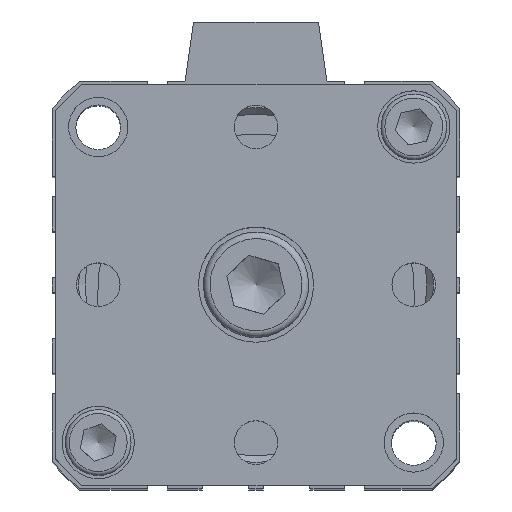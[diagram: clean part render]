
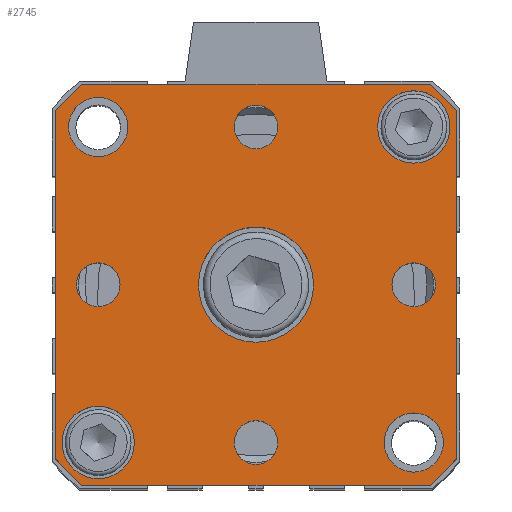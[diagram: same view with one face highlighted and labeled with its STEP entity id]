
A CAD part, top view. The second image highlights one B-rep face of the part: STEP entity #2745.
In plain terms, the highlighted planar face has unit normal (0, 0, 1).
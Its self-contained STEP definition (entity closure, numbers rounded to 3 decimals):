
#365=CARTESIAN_POINT('',(-37.557,28.294,126.6));
#366=VERTEX_POINT('',#365);
#367=CARTESIAN_POINT('',(-33.557,32.294,126.6));
#368=VERTEX_POINT('',#367);
#369=CARTESIAN_POINT('',(-37.557,28.294,126.6));
#370=DIRECTION('',(0.707,0.707,0.0));
#371=VECTOR('',#370,5.657);
#372=LINE('',#369,#371);
#373=EDGE_CURVE('',#366,#368,#372,.T.);
#417=CARTESIAN_POINT('',(19.443,32.294,126.6));
#418=VERTEX_POINT('',#417);
#419=CARTESIAN_POINT('',(-33.557,32.294,126.6));
#420=DIRECTION('',(1.0,0.0,0.0));
#421=VECTOR('',#420,53.);
#422=LINE('',#419,#421);
#423=EDGE_CURVE('',#368,#418,#422,.T.);
#440=CARTESIAN_POINT('',(23.443,28.294,126.6));
#441=VERTEX_POINT('',#440);
#442=CARTESIAN_POINT('',(19.443,32.294,126.6));
#443=DIRECTION('',(0.707,-0.707,0.0));
#444=VECTOR('',#443,5.657);
#445=LINE('',#442,#444);
#446=EDGE_CURVE('',#418,#441,#445,.T.);
#464=CARTESIAN_POINT('',(23.443,-24.706,126.6));
#465=VERTEX_POINT('',#464);
#466=CARTESIAN_POINT('',(19.443,-28.706,126.6));
#467=VERTEX_POINT('',#466);
#468=CARTESIAN_POINT('',(23.443,-24.706,126.6));
#469=DIRECTION('',(-0.707,-0.707,0.0));
#470=VECTOR('',#469,5.657);
#471=LINE('',#468,#470);
#472=EDGE_CURVE('',#465,#467,#471,.T.);
#496=CARTESIAN_POINT('',(-33.557,-28.706,126.6));
#497=VERTEX_POINT('',#496);
#498=CARTESIAN_POINT('',(19.443,-28.706,126.6));
#499=DIRECTION('',(-1.0,0.0,0.0));
#500=VECTOR('',#499,53.);
#501=LINE('',#498,#500);
#502=EDGE_CURVE('',#467,#497,#501,.T.);
#519=CARTESIAN_POINT('',(-37.557,-24.706,126.6));
#520=VERTEX_POINT('',#519);
#521=CARTESIAN_POINT('',(-33.557,-28.706,126.6));
#522=DIRECTION('',(-0.707,0.707,0.0));
#523=VECTOR('',#522,5.657);
#524=LINE('',#521,#523);
#525=EDGE_CURVE('',#497,#520,#524,.T.);
#592=CARTESIAN_POINT('',(1.693,1.794,126.6));
#593=VERTEX_POINT('',#592);
#594=CARTESIAN_POINT('',(-7.057,1.794,126.6));
#595=DIRECTION('',(0.0,0.0,-1.0));
#596=DIRECTION('',(1.0,0.0,0.0));
#597=AXIS2_PLACEMENT_3D('',#594,#595,#596);
#598=CIRCLE('',#597,8.75);
#599=EDGE_CURVE('',#593,#593,#598,.T.);
#711=CARTESIAN_POINT('',(-25.557,-22.206,126.6));
#712=VERTEX_POINT('',#711);
#713=CARTESIAN_POINT('',(-31.057,-22.206,126.6));
#714=DIRECTION('',(0.0,0.0,-1.0));
#715=DIRECTION('',(1.0,0.0,0.0));
#716=AXIS2_PLACEMENT_3D('',#713,#714,#715);
#717=CIRCLE('',#716,5.5);
#718=EDGE_CURVE('',#712,#712,#717,.T.);
#813=CARTESIAN_POINT('',(22.443,25.794,126.6));
#814=VERTEX_POINT('',#813);
#815=CARTESIAN_POINT('',(16.943,25.794,126.6));
#816=DIRECTION('',(0.0,0.0,-1.0));
#817=DIRECTION('',(1.0,0.0,0.0));
#818=AXIS2_PLACEMENT_3D('',#815,#816,#817);
#819=CIRCLE('',#818,5.5);
#820=EDGE_CURVE('',#814,#814,#819,.T.);
#890=CARTESIAN_POINT('',(20.266,1.794,126.6));
#891=VERTEX_POINT('',#890);
#892=CARTESIAN_POINT('',(16.943,1.794,126.6));
#893=DIRECTION('',(0.0,0.0,-1.0));
#894=DIRECTION('',(1.0,0.0,0.0));
#895=AXIS2_PLACEMENT_3D('',#892,#893,#894);
#896=CIRCLE('',#895,3.324);
#897=EDGE_CURVE('',#891,#891,#896,.T.);
#931=CARTESIAN_POINT('',(-3.734,-22.206,126.6));
#932=VERTEX_POINT('',#931);
#933=CARTESIAN_POINT('',(-7.057,-22.206,126.6));
#934=DIRECTION('',(0.0,0.0,-1.0));
#935=DIRECTION('',(1.0,0.0,0.0));
#936=AXIS2_PLACEMENT_3D('',#933,#934,#935);
#937=CIRCLE('',#936,3.324);
#938=EDGE_CURVE('',#932,#932,#937,.T.);
#972=CARTESIAN_POINT('',(-27.734,1.794,126.6));
#973=VERTEX_POINT('',#972);
#974=CARTESIAN_POINT('',(-31.057,1.794,126.6));
#975=DIRECTION('',(0.0,0.0,-1.0));
#976=DIRECTION('',(1.0,0.0,0.0));
#977=AXIS2_PLACEMENT_3D('',#974,#975,#976);
#978=CIRCLE('',#977,3.324);
#979=EDGE_CURVE('',#973,#973,#978,.T.);
#1013=CARTESIAN_POINT('',(-3.734,25.794,126.6));
#1014=VERTEX_POINT('',#1013);
#1015=CARTESIAN_POINT('',(-7.057,25.794,126.6));
#1016=DIRECTION('',(0.0,0.0,-1.0));
#1017=DIRECTION('',(1.0,0.0,0.0));
#1018=AXIS2_PLACEMENT_3D('',#1015,#1016,#1017);
#1019=CIRCLE('',#1018,3.324);
#1020=EDGE_CURVE('',#1014,#1014,#1019,.T.);
#2634=CARTESIAN_POINT('',(21.443,-22.206,126.6));
#2635=VERTEX_POINT('',#2634);
#2636=CARTESIAN_POINT('',(16.943,-22.206,126.6));
#2637=DIRECTION('',(0.0,0.0,-1.0));
#2638=DIRECTION('',(-1.0,0.0,0.0));
#2639=AXIS2_PLACEMENT_3D('',#2636,#2637,#2638);
#2640=CIRCLE('',#2639,4.5);
#2641=EDGE_CURVE('',#2635,#2635,#2640,.T.);
#2654=CARTESIAN_POINT('',(-26.557,25.794,126.6));
#2655=VERTEX_POINT('',#2654);
#2656=CARTESIAN_POINT('',(-31.057,25.794,126.6));
#2657=DIRECTION('',(0.0,0.0,-1.0));
#2658=DIRECTION('',(-1.0,0.0,0.0));
#2659=AXIS2_PLACEMENT_3D('',#2656,#2657,#2658);
#2660=CIRCLE('',#2659,4.5);
#2661=EDGE_CURVE('',#2655,#2655,#2660,.T.);
#2675=CARTESIAN_POINT('',(23.443,28.294,126.6));
#2676=DIRECTION('',(0.0,-1.0,0.0));
#2677=VECTOR('',#2676,53.);
#2678=LINE('',#2675,#2677);
#2679=EDGE_CURVE('',#441,#465,#2678,.T.);
#2694=CARTESIAN_POINT('',(-37.557,-24.706,126.6));
#2695=DIRECTION('',(0.0,1.0,0.0));
#2696=VECTOR('',#2695,53.);
#2697=LINE('',#2694,#2696);
#2698=EDGE_CURVE('',#520,#366,#2697,.T.);
#2703=CARTESIAN_POINT('',(-7.057,1.794,126.6));
#2704=DIRECTION('',(0.0,0.0,1.0));
#2705=DIRECTION('',(1.0,0.0,0.0));
#2706=AXIS2_PLACEMENT_3D('',#2703,#2704,#2705);
#2707=PLANE('',#2706);
#2708=ORIENTED_EDGE('',*,*,#373,.F.);
#2709=ORIENTED_EDGE('',*,*,#2698,.F.);
#2710=ORIENTED_EDGE('',*,*,#525,.F.);
#2711=ORIENTED_EDGE('',*,*,#502,.F.);
#2712=ORIENTED_EDGE('',*,*,#472,.F.);
#2713=ORIENTED_EDGE('',*,*,#2679,.F.);
#2714=ORIENTED_EDGE('',*,*,#446,.F.);
#2715=ORIENTED_EDGE('',*,*,#423,.F.);
#2716=EDGE_LOOP('',(#2708,#2709,#2710,#2711,#2712,#2713,#2714,#2715));
#2717=FACE_OUTER_BOUND('',#2716,.T.);
#2718=ORIENTED_EDGE('',*,*,#599,.T.);
#2719=EDGE_LOOP('',(#2718));
#2720=FACE_BOUND('',#2719,.T.);
#2721=ORIENTED_EDGE('',*,*,#718,.T.);
#2722=EDGE_LOOP('',(#2721));
#2723=FACE_BOUND('',#2722,.T.);
#2724=ORIENTED_EDGE('',*,*,#820,.T.);
#2725=EDGE_LOOP('',(#2724));
#2726=FACE_BOUND('',#2725,.T.);
#2727=ORIENTED_EDGE('',*,*,#897,.T.);
#2728=EDGE_LOOP('',(#2727));
#2729=FACE_BOUND('',#2728,.T.);
#2730=ORIENTED_EDGE('',*,*,#938,.T.);
#2731=EDGE_LOOP('',(#2730));
#2732=FACE_BOUND('',#2731,.T.);
#2733=ORIENTED_EDGE('',*,*,#979,.T.);
#2734=EDGE_LOOP('',(#2733));
#2735=FACE_BOUND('',#2734,.T.);
#2736=ORIENTED_EDGE('',*,*,#1020,.T.);
#2737=EDGE_LOOP('',(#2736));
#2738=FACE_BOUND('',#2737,.T.);
#2739=ORIENTED_EDGE('',*,*,#2641,.T.);
#2740=EDGE_LOOP('',(#2739));
#2741=FACE_BOUND('',#2740,.T.);
#2742=ORIENTED_EDGE('',*,*,#2661,.T.);
#2743=EDGE_LOOP('',(#2742));
#2744=FACE_BOUND('',#2743,.T.);
#2745=ADVANCED_FACE('',(#2717,#2720,#2723,#2726,#2729,#2732,#2735,#2738,#2741,#2744),#2707,.T.);
